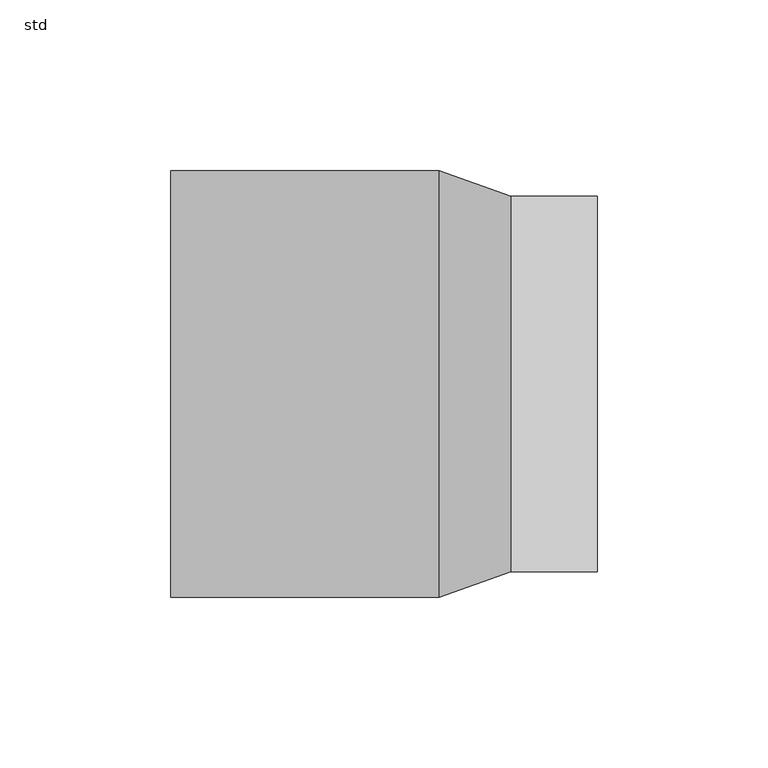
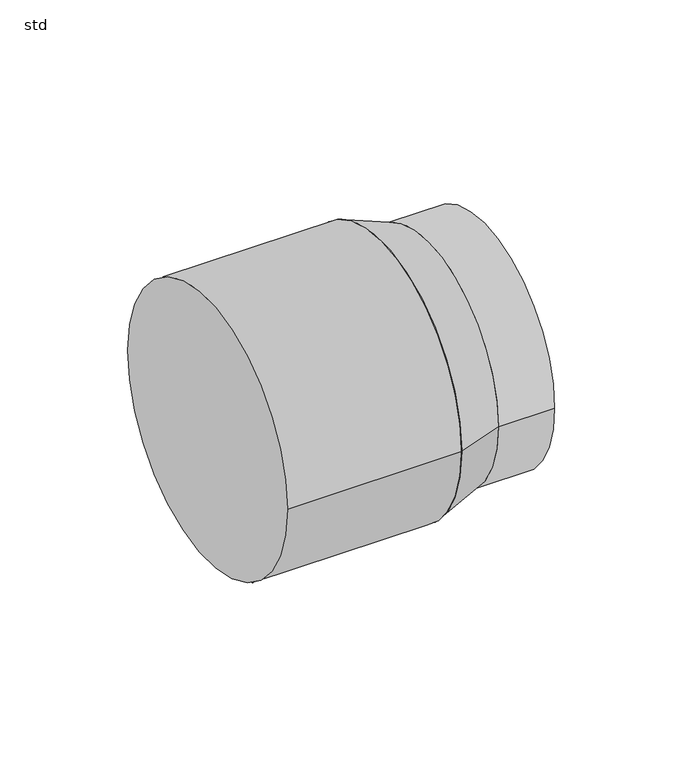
"""IFC4 building model written with IfcOpenShell, lengths in millimetres: pipe fitting geometry, ZZZ_do not use_PIF_ST_UN_ACO pipe increaser coupling_ACO : std."""

from ifc_helpers import new_model, si_unit, point, frame, origin, origin_2d, place, context, project, spatial, polyline, circle_curve, trimmed, segment, composite_curve, outline, extrude, source, transform, mapped, element, save
from ifc_brep_helpers import plane_surface, revolved_surface, advanced_brep


def std_a04eb2e2(model_context):
    return source(origin(), model_context, "Body", "SolidModel", [
        advanced_brep(
        [(37.0833333, 55.0, 0.0), (37.0833333, -55.0, 0.0), (16.25, 62.5, 0.0), (16.25, -62.5, 0.0)],
        [
            (0, 1, circle_curve(frame((37.0833333, 0.0, 0.0), z_axis=(1.0, 1.0460496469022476e-12, 0.0), x_axis=(1.0459161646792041e-12, -1.0, 0.0)), 55.0)),
            (1, 0, circle_curve(frame((37.0833333, 0.0, 0.0), z_axis=(1.0, 1.0460496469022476e-12, 0.0), x_axis=(-1.0459161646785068e-12, 1.0, 0.0)), 55.0)),
            (2, 3, circle_curve(frame((16.25, 0.0, 0.0), z_axis=(-1.0, -1.0460496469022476e-12, 0.0), x_axis=(-1.0459161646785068e-12, 1.0, 0.0)), 62.5)),
            (3, 2, circle_curve(frame((16.25, 0.0, 0.0), z_axis=(-1.0, -1.0460496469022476e-12, 0.0), x_axis=(1.0459161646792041e-12, -1.0, 0.0)), 62.5)),
            (2, 0),
            (1, 3),
        ],
        [
            plane_surface(frame((37.0833333, 0.0, 0.0), z_axis=(1.0, 0.0, 0.0), x_axis=(0.0, 0.0, -1.0))),
            plane_surface(frame((16.25, 0.0, 0.0), z_axis=(-1.0, 0.0, 0.0), x_axis=(0.0, 0.0, -1.0))),
            revolved_surface(polyline([(37.08333329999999, 55.00000001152, 0.0), (16.24999999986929, 62.50000000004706, 0.0)]), (189.8611111, 0.0, 0.0), (-1.0, -1.0460496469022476e-12, 0.0)),
            revolved_surface(polyline([(37.083333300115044, -55.00000001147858, 0.0), (16.25, -62.5, 0.0)]), (189.8611111, 0.0, 0.0), (-1.0, -1.0460496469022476e-12, 0.0)),
        ],
        [
            (0, [[1, 2]]),
            (1, [[3, 4]]),
            (2, [[5, -2, 6, -3]]),
            (3, [[-6, -1, -5, -4]]),
        ],
    ),
        extrude(outline(composite_curve([segment(trimmed(circle_curve(origin_2d(), 55.0), [point((-55.0, 0.0))], [point((55.0, 0.0))], False, "CARTESIAN"), True, "CONTINUOUS"), segment(trimmed(circle_curve(origin_2d(), 55.0), [point((55.0, 0.0))], [point((-55.0, 0.0))], False, "CARTESIAN"), True, "CONTINUOUS")], self_intersect=False)), frame((37.0833333, 0.0, 0.0), z_axis=(1.0, 0.0, 0.0), x_axis=(0.0, 1.0, 0.0)), (0.0, 0.0, 1.0), 25.4166667),
        extrude(outline(composite_curve([segment(trimmed(circle_curve(origin_2d(), 62.5), [point((62.5, 0.0))], [point((-62.5, 0.0))], False, "CARTESIAN"), True, "CONTINUOUS"), segment(trimmed(circle_curve(origin_2d(), 62.5), [point((-62.5, 0.0))], [point((62.5, 0.0))], False, "CARTESIAN"), True, "CONTINUOUS")], self_intersect=False)), frame((-62.5, 0.0, 0.0), z_axis=(1.0, 0.0, 0.0), x_axis=(0.0, 1.0, 0.0)), (0.0, 0.0, 1.0), 78.75),
    ])


if __name__ == "__main__":
    model = new_model("IFC4")
    model_context = context("Model", 3, world=origin())
    ifc_project = project(units=[si_unit("LENGTHUNIT", "METRE", prefix="MILLI")], contexts=[model_context])
    site = spatial("IfcSite", under=ifc_project)
    building = spatial("IfcBuilding", under=site)
    placement = place(None, origin())
    std_shape = std_a04eb2e2(model_context)
    element("IfcPipeFitting", 1, ObjectType="ZZZ_do not use_PIF_ST_UN_ACO pipe increaser coupling_ACO : std", at=placement, inside=building, context=model_context, shape_type="MappedRepresentation", body=[
        mapped(std_shape, transform((0.0, 0.0, 0.0), x_axis=(1.0, 0.0, 0.0), y_axis=(0.0, 1.0, 0.0), z_axis=(0.0, 0.0, 1.0))),
    ])
    save(model, "model.ifc")
